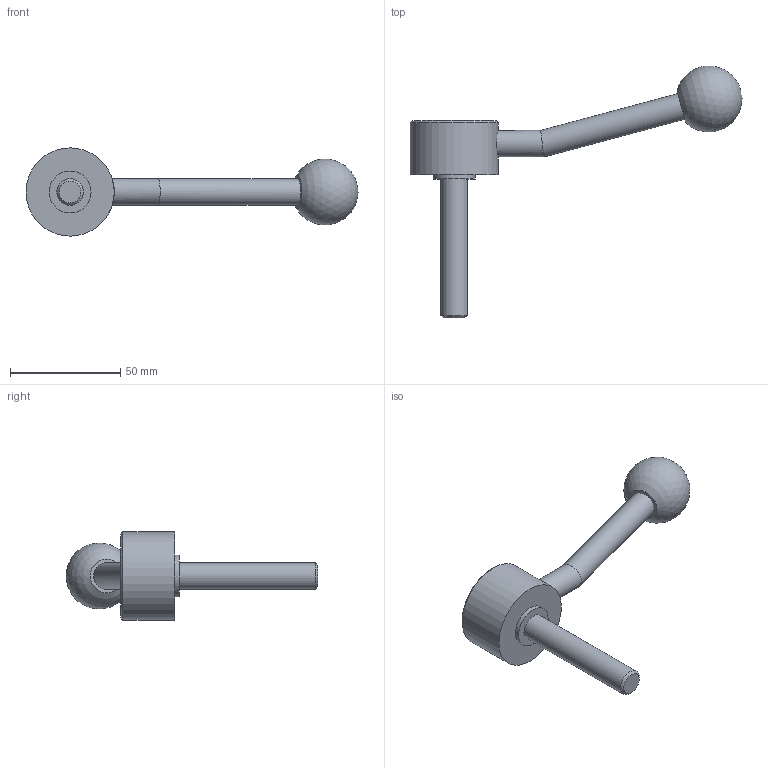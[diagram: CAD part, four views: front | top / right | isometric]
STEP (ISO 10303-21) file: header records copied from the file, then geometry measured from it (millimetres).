
FILE_DESCRIPTION( ( 'STEP AP203' ), '1' );
FILE_NAME( 'C:/Temp/Ganter_Step_05_03_2020/data/2_1/gn_125/gn_125_ms/gn_125_ms_e/Flat Adjustable Lever GN 125-40-M12-63-E.stp', '2020-03-05T11:01:02', ( 'License CC BY-ND 4.0' ), ( 'CADENAS' ), ' ', 'PARTsolutions', ' ' );
FILE_SCHEMA( ( 'CONFIG_CONTROL_DESIGN' ) );
Length unit declared in the file: millimetre
Products named in the file (1): _Flat Adjustable Lever GN 125-40-M12-63-E
Bounding box: 150.51 x 114.23 x 40 mm (x, y, z)
Volume: 61856.5 mm3; surface area: 13825.1 mm2
Topology: 1 solids, 1 shells, 15 faces, 25 edges, 16 vertices
Faces by surface type: cylinder 6, plane 6, cone 2, sphere 1
Full cylindrical faces by diameter (mm): 12 x3, 19 x1, 28 x1, 40 x1
Entity records: 422 total; most frequent: CARTESIAN_POINT 128, DIRECTION 58, AXIS2_PLACEMENT_3D 29, EDGE_LOOP 28, ORIENTED_EDGE 28, FACE_OUTER_BOUND 21, ADVANCED_FACE 15, VERTEX_POINT 15
